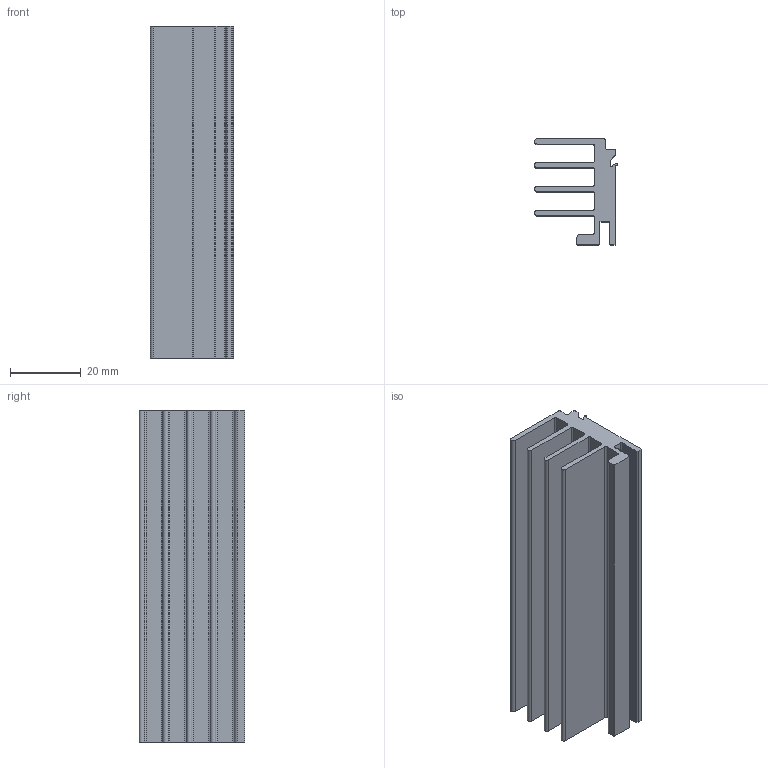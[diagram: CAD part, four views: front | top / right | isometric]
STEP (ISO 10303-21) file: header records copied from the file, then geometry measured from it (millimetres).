
FILE_DESCRIPTION (( 'STEP AP214' ), '1' );
FILE_NAME ('PR 290_94_SE_M3.STEP', '2004-04-02T11:57:23', ( '' ), ( '' ), 'SwSTEP 2.0', 'SolidWorks 2002349', '' );
FILE_SCHEMA (( 'AUTOMOTIVE_DESIGN' ));
Length unit declared in the file: millimetre
Products named in the file (1): PR 290_94_SE_M3
Bounding box: 23.5 x 30 x 94 mm (x, y, z)
Volume: 24969.4 mm3; surface area: 22404 mm2
Topology: 1 solids, 1 shells, 133 faces, 393 edges, 262 vertices
Faces by surface type: plane 75, cylinder 58
Entity records: 4486 total; most frequent: CARTESIAN_POINT 789, ORIENTED_EDGE 786, DIRECTION 777, EDGE_CURVE 393, LINE 277, VECTOR 277, VERTEX_POINT 262, AXIS2_PLACEMENT_3D 250
